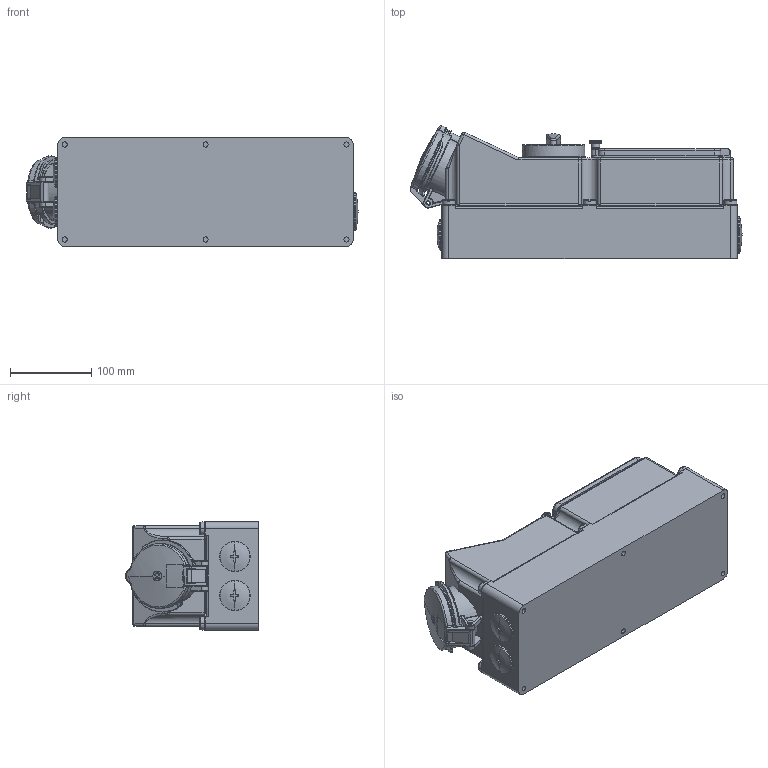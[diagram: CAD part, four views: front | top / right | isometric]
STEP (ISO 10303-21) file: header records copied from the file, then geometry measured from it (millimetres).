
FILE_DESCRIPTION((''),'2;1');
FILE_NAME('1114832_ASM_SW0001','2018-01-15T',('gisse'),('MENNEKES'),'PRO/ENGINEER BY PARAMETRIC TECHNOLOGY CORPORATION, 2015440','PRO/ENGINEER BY PARAMETRIC TECHNOLOGY CORPORATION, 2015440','');
FILE_SCHEMA(('AUTOMOTIVE_DESIGN { 1 0 10303 214 1 1 1 1 }'));
Products named in the file (1): 1114832_ASM_SW0001
Bounding box: 408.76 x 163.73 x 134 mm (x, y, z)
Volume: 6317548.5 mm3; surface area: 262955.4 mm2
Topology: 1 solids, 3 shells, 1332 faces, 3640 edges, 2339 vertices
Faces by surface type: plane 633, cylinder 260, cone 207, bspline 118, torus 85, sphere 27, extrusion 2
Entity records: 79679 total; most frequent: CARTESIAN_POINT 20739, ORIENTED_EDGE 7276, DIRECTION 5947, PRESENTATION_STYLE_ASSIGNMENT 4954, STYLED_ITEM 3647, CURVE_STYLE 3640, EDGE_CURVE 3638, FILL_AREA_STYLE_COLOUR 2620
